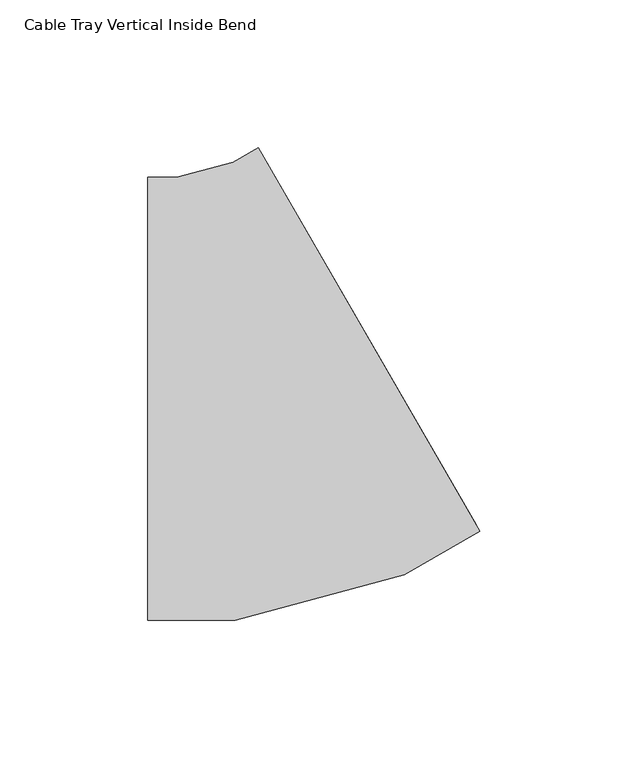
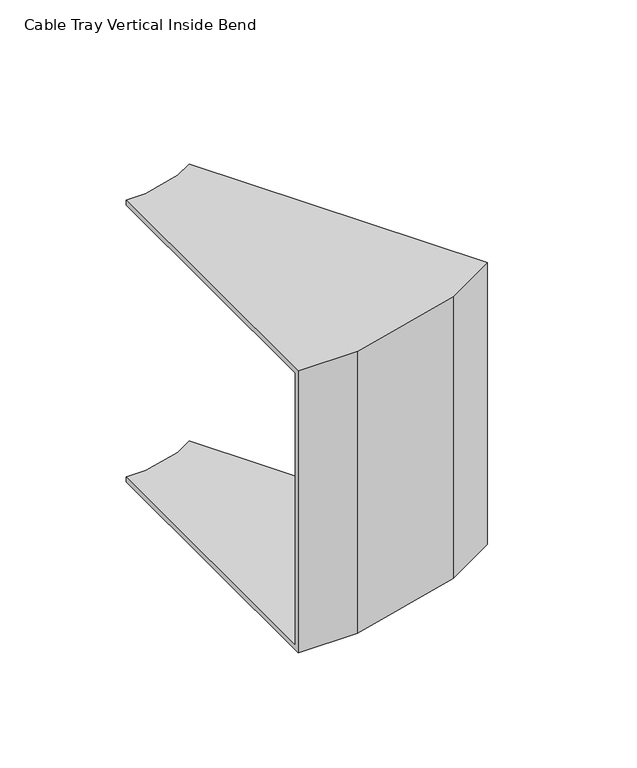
"""IFC4 building model written with IfcOpenShell, lengths in millimetres: cable carrier fitting geometry, Cable Tray Vertical Inside Bend : ELEC_ELV_TKG_N2402."""

from ifc_helpers import new_model, si_unit, origin, place, context, project, spatial, faceted_brep, source, transform, mapped, element, save


def cable_tray_vertical_inside_bend_fd30bc78(model_context):
    return source(origin(), model_context, "Body", "Brep", [
        faceted_brep([(-40.1920682, 75.0, 75.0), (-40.1920682, 75.0, 72.46), (-40.1920682, -72.46, 72.46), (-40.1920682, -72.46, -72.46), (-40.1920682, 75.0, -72.46), (-40.1920682, 75.0, -75.0), (-40.1920682, -75.0, -75.0), (-40.1920682, -75.0, 75.0), (-2.6923192, 85.0479498, 75.0), (72.3071787, -44.8561507, 75.0), (72.3071787, -44.8561507, -75.0), (-2.6923192, 85.0479498, -75.0), (-2.6923192, 85.0479498, -72.46), (71.0371872, -42.6564412, -72.46), (71.0371872, -42.6564412, 72.46), (-2.6923192, 85.0479498, 72.46), (-30.3182046, 75.0, 75.0), (-30.3182046, 75.0, 72.46), (-11.243355, 80.111051, 72.46), (45.6736749, -57.2999412, 72.46), (-10.9048722, -72.46, 72.46), (-10.9048722, -72.46, -72.46), (45.6736749, -57.2999412, -72.46), (-11.243355, 80.111051, -72.46), (-30.3182046, 75.0, -72.46), (-30.3182046, 75.0, -75.0), (-11.243355, 80.111051, -75.0), (46.6540713, -59.6668469, -75.0), (-10.5704774, -75.0, -75.0), (-10.5704774, -75.0, 75.0), (46.6540713, -59.6668469, 75.0), (-11.243355, 80.111051, 75.0)], [[[0, 1, 2, 3, 4, 5, 6, 7]], [[8, 9, 10, 11, 12, 13, 14, 15]], [[1, 0, 16, 17]], [[2, 1, 17, 18, 15, 14, 19, 20]], [[3, 2, 20, 21]], [[4, 3, 21, 22, 13, 12, 23, 24]], [[5, 4, 24, 25]], [[6, 5, 25, 26, 11, 10, 27, 28]], [[7, 6, 28, 29]], [[0, 7, 29, 30, 9, 8, 31, 16]], [[17, 16, 31, 18]], [[21, 20, 19, 22]], [[25, 24, 23, 26]], [[29, 28, 27, 30]], [[18, 31, 8, 15]], [[22, 19, 14, 13]], [[26, 23, 12, 11]], [[30, 27, 10, 9]]]),
    ])


if __name__ == "__main__":
    model = new_model("IFC4")
    model_context = context("Model", 3, world=origin())
    ifc_project = project(units=[si_unit("LENGTHUNIT", "METRE", prefix="MILLI")], contexts=[model_context])
    site = spatial("IfcSite", under=ifc_project)
    building = spatial("IfcBuilding", under=site)
    placement = place(None, origin())
    cable_tray_vertical_inside_bend_shape = cable_tray_vertical_inside_bend_fd30bc78(model_context)
    element("IfcCableCarrierFitting", 1, ObjectType="Cable Tray Vertical Inside Bend : ELEC_ELV_TKG_N2402", at=placement, inside=building, context=model_context, shape_type="MappedRepresentation", body=[
        mapped(cable_tray_vertical_inside_bend_shape, transform((0.0, 0.0, 0.0), x_axis=(1.0, 0.0, 0.0), y_axis=(0.0, 1.0, 0.0), z_axis=(0.0, 0.0, 1.0))),
    ])
    save(model, "model.ifc")
